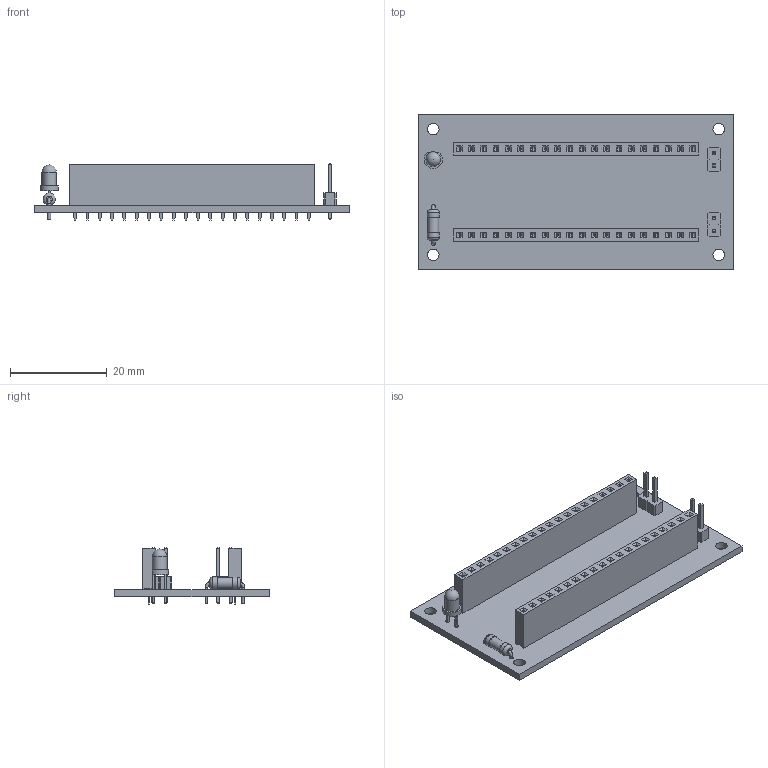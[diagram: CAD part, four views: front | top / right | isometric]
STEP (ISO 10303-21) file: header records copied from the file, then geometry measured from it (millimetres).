
FILE_DESCRIPTION(('KiCad electronic assembly'),'2;1');
FILE_NAME('carrier_generic_components.step','2026-10-29T21:18:26',( 'Pcbnew'),('Kicad'),'Open CASCADE STEP processor 7.9', 'KiCad to STEP converter','Unknown');
FILE_SCHEMA(('AUTOMOTIVE_DESIGN { 1 0 10303 214 1 1 1 1 }'));
Length unit declared in the file: millimetre
Products named in the file (10): carrier_generic_components 1; PinSocket_1x20_P2.54mm_Vertical; R_Axial_DIN0207_L6.3mm_D2.5mm_P7.62mm_Horizontal; R_Axial_DIN0207_L63mm_D25mm_P762mm_Horizontal; PinHeader_1x02_P2.54mm_Vertical; PinHeader_1x02_P254mm_Vertical; LED_D3.0mm; focus_control_PCB
Assembly tree (11 placements, depth 3):
  carrier_generic_components 1
    PinSocket_1x20_P2.54mm_Vertical  x2
      PinSocket_1x20_P2.54mm_Vertical
    R_Axial_DIN0207_L6.3mm_D2.5mm_P7.62mm_Horizontal
      R_Axial_DIN0207_L63mm_D25mm_P762mm_Horizontal
    PinHeader_1x02_P2.54mm_Vertical  x2
      PinHeader_1x02_P254mm_Vertical
    LED_D3.0mm
      LED_D3.0mm
    focus_control_PCB
Bounding box: 65 x 32 x 11.64 mm (x, y, z)
Volume: 5271 mm3; surface area: 8335.2 mm2
Topology: 7 solids, 7 shells, 1253 faces, 3240 edges, 2094 vertices
Faces by surface type: plane 1189, cylinder 59, torus 4, sphere 1
Full cylindrical faces by diameter (mm): 0.6 x2, 0.8 x2, 0.9 x2, 1 x44, 2.25 x1, 2.4 x4, 2.5 x2, 3 x1
Entity records: 27541 total; most frequent: CARTESIAN_POINT 3875, ORIENTED_EDGE 3470, DIRECTION 3226, EDGE_CURVE 1735, LINE 1606, VECTOR 1606, VERTEX_POINT 1125, FACE_BOUND 826
